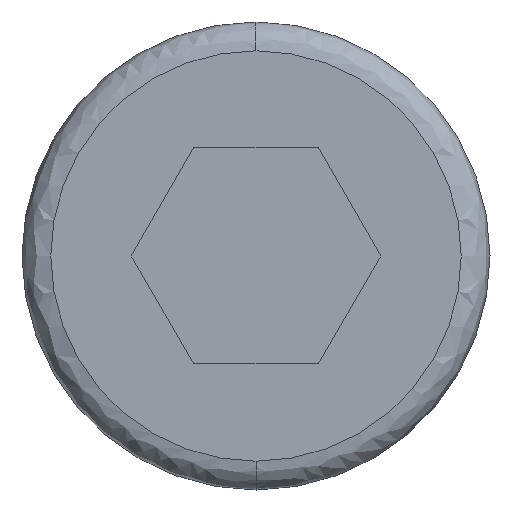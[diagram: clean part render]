
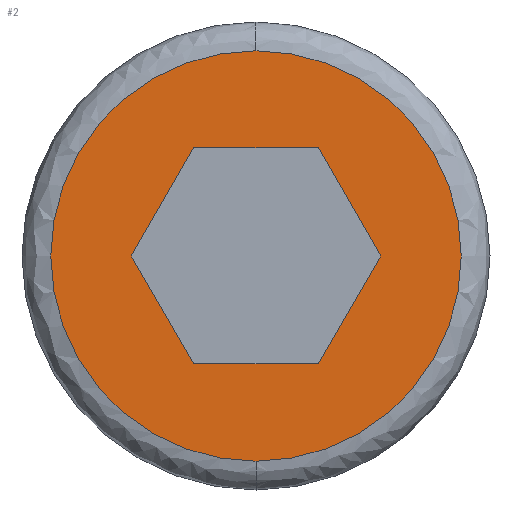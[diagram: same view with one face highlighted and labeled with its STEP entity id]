
A CAD part, left-side view. The second image highlights one B-rep face of the part: STEP entity #2.
In plain terms, the highlighted planar face has unit normal (-1, 0, 0).
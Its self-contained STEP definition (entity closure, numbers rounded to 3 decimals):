
#2 = ADVANCED_FACE ( 'NONE', ( #48, #35 ), #314, .T. ) ;
#35 = FACE_BOUND ( 'NONE', #777, .T. ) ;
#37 = CARTESIAN_POINT ( 'NONE',  ( -118., -33.441, 67. ) ) ;
#41 = EDGE_CURVE ( 'NONE', #324, #75, #688, .T. ) ;
#48 = FACE_OUTER_BOUND ( 'NONE', #825, .T. ) ;
#56 = VECTOR ( 'NONE', #323, 1000. ) ;
#59 = DIRECTION ( 'NONE',  ( 0., 1., 0. ) ) ;
#63 = ORIENTED_EDGE ( 'NONE', *, *, #200, .T. ) ;
#69 = CARTESIAN_POINT ( 'NONE',  ( -118., -36.675, 68.633 ) ) ;
#75 = VERTEX_POINT ( 'NONE', #208 ) ;
#78 = EDGE_CURVE ( 'NONE', #105, #538, #153, .T. ) ;
#86 = DIRECTION ( 'NONE',  ( 0., -0.5, 0.866 ) ) ;
#101 = ORIENTED_EDGE ( 'NONE', *, *, #560, .F. ) ;
#105 = VERTEX_POINT ( 'NONE', #259 ) ;
#109 = AXIS2_PLACEMENT_3D ( 'NONE', #318, #503, #710 ) ;
#133 = CARTESIAN_POINT ( 'NONE',  ( -118., -34., 70. ) ) ;
#143 = CARTESIAN_POINT ( 'NONE',  ( -118., -37.464, 70. ) ) ;
#153 = LINE ( 'NONE', #423, #462 ) ;
#194 = CIRCLE ( 'NONE', #298, 5.7 ) ;
#200 = EDGE_CURVE ( 'NONE', #538, #470, #399, .T. ) ;
#202 = VERTEX_POINT ( 'NONE', #455 ) ;
#208 = CARTESIAN_POINT ( 'NONE',  ( -118., -35.732, 67. ) ) ;
#233 = EDGE_CURVE ( 'NONE', #532, #861, #194, .T. ) ;
#245 = CARTESIAN_POINT ( 'NONE',  ( -118., -34., 64.3 ) ) ;
#248 = ORIENTED_EDGE ( 'NONE', *, *, #233, .F. ) ;
#252 = DIRECTION ( 'NONE',  ( -1., 0., 0. ) ) ;
#255 = CARTESIAN_POINT ( 'NONE',  ( -118., -35.809, 72.867 ) ) ;
#259 = CARTESIAN_POINT ( 'NONE',  ( -118., -30.536, 70. ) ) ;
#298 = AXIS2_PLACEMENT_3D ( 'NONE', #133, #669, #59 ) ;
#299 = CARTESIAN_POINT ( 'NONE',  ( -118., -31.15, 70. ) ) ;
#305 = ORIENTED_EDGE ( 'NONE', *, *, #78, .T. ) ;
#310 = ORIENTED_EDGE ( 'NONE', *, *, #436, .T. ) ;
#314 = PLANE ( 'NONE',  #606 ) ;
#318 = CARTESIAN_POINT ( 'NONE',  ( -118., -34., 70. ) ) ;
#323 = DIRECTION ( 'NONE',  ( 0., -0.5, -0.866 ) ) ;
#324 = VERTEX_POINT ( 'NONE', #143 ) ;
#325 = VECTOR ( 'NONE', #772, 1000. ) ;
#372 = ORIENTED_EDGE ( 'NONE', *, *, #853, .T. ) ;
#399 = LINE ( 'NONE', #805, #843 ) ;
#405 = DIRECTION ( 'NONE',  ( 0., -1., 0. ) ) ;
#423 = CARTESIAN_POINT ( 'NONE',  ( -118., -30.613, 70.133 ) ) ;
#434 = CARTESIAN_POINT ( 'NONE',  ( -118., -35.732, 73. ) ) ;
#436 = EDGE_CURVE ( 'NONE', #75, #202, #779, .T. ) ;
#455 = CARTESIAN_POINT ( 'NONE',  ( -118., -32.268, 67. ) ) ;
#462 = VECTOR ( 'NONE', #86, 1000. ) ;
#470 = VERTEX_POINT ( 'NONE', #434 ) ;
#472 = ORIENTED_EDGE ( 'NONE', *, *, #795, .T. ) ;
#482 = DIRECTION ( 'NONE',  ( 0., 0.5, -0.866 ) ) ;
#503 = DIRECTION ( 'NONE',  ( 1., 0., 0. ) ) ;
#516 = VECTOR ( 'NONE', #482, 1000. ) ;
#532 = VERTEX_POINT ( 'NONE', #245 ) ;
#538 = VERTEX_POINT ( 'NONE', #651 ) ;
#560 = EDGE_CURVE ( 'NONE', #861, #532, #802, .T. ) ;
#572 = DIRECTION ( 'NONE',  ( 0., 0., 1. ) ) ;
#591 = CARTESIAN_POINT ( 'NONE',  ( -118., -31.479, 68.367 ) ) ;
#598 = DIRECTION ( 'NONE',  ( 0., 0.5, 0.866 ) ) ;
#606 = AXIS2_PLACEMENT_3D ( 'NONE', #299, #252, #572 ) ;
#615 = LINE ( 'NONE', #255, #56 ) ;
#642 = VECTOR ( 'NONE', #598, 1000. ) ;
#651 = CARTESIAN_POINT ( 'NONE',  ( -118., -32.268, 73. ) ) ;
#669 = DIRECTION ( 'NONE',  ( 1., 0., 0. ) ) ;
#688 = LINE ( 'NONE', #69, #516 ) ;
#710 = DIRECTION ( 'NONE',  ( 0., 1., 0. ) ) ;
#772 = DIRECTION ( 'NONE',  ( 0., 1., 0. ) ) ;
#777 = EDGE_LOOP ( 'NONE', ( #372, #850, #310, #472, #305, #63 ) ) ;
#779 = LINE ( 'NONE', #37, #325 ) ;
#795 = EDGE_CURVE ( 'NONE', #202, #105, #872, .T. ) ;
#802 = CIRCLE ( 'NONE', #109, 5.7 ) ;
#805 = CARTESIAN_POINT ( 'NONE',  ( -118., -31.709, 73. ) ) ;
#825 = EDGE_LOOP ( 'NONE', ( #248, #101 ) ) ;
#843 = VECTOR ( 'NONE', #405, 1000. ) ;
#850 = ORIENTED_EDGE ( 'NONE', *, *, #41, .T. ) ;
#853 = EDGE_CURVE ( 'NONE', #470, #324, #615, .T. ) ;
#861 = VERTEX_POINT ( 'NONE', #874 ) ;
#872 = LINE ( 'NONE', #591, #642 ) ;
#874 = CARTESIAN_POINT ( 'NONE',  ( -118., -34., 75.7 ) ) ;
